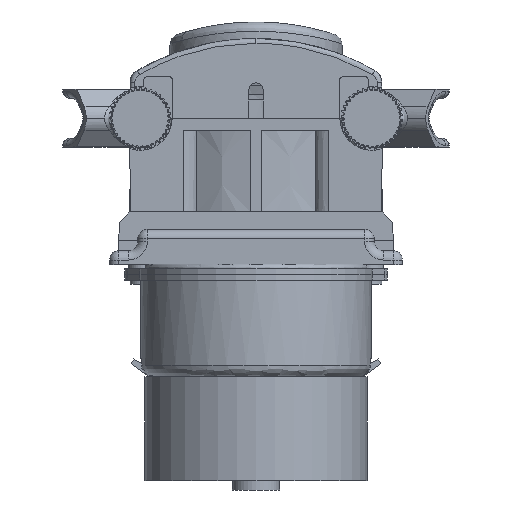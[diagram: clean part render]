
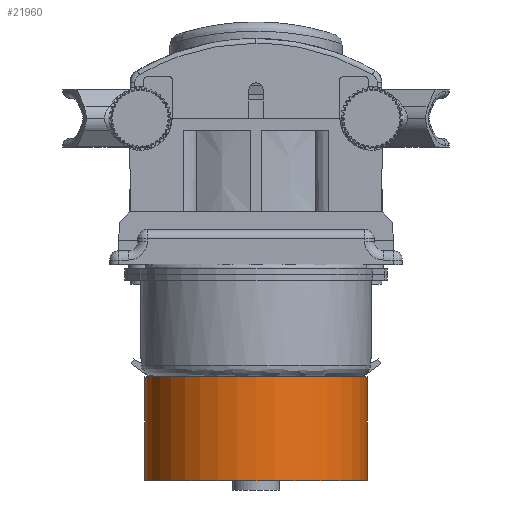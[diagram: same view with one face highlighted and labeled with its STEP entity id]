
A CAD part, front view. The second image highlights one B-rep face of the part: STEP entity #21960.
In plain terms, the highlighted cylindrical face has radius 23.5 mm (diameter 47 mm), a partial arc.
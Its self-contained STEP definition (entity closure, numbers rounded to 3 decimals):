
#3974 = ORIENTED_EDGE ( 'NONE', *, *, #27668, .F. ) ;
#4588 = ORIENTED_EDGE ( 'NONE', *, *, #60987, .T. ) ;
#5088 = VERTEX_POINT ( 'NONE', #8074 ) ;
#7483 = CIRCLE ( 'NONE', #52466, 23.5 ) ;
#8074 = CARTESIAN_POINT ( 'NONE',  ( -23.5, -26.2, -53.8 ) ) ;
#9648 = CIRCLE ( 'NONE', #29280, 23.5 ) ;
#11693 = DIRECTION ( 'NONE',  ( -1., 0., 0. ) ) ;
#16136 = CARTESIAN_POINT ( 'NONE',  ( -23.5, -26.2, -31.8 ) ) ;
#16463 = VECTOR ( 'NONE', #35520, 1000. ) ;
#16899 = DIRECTION ( 'NONE',  ( 0., 0., 1. ) ) ;
#18077 = LINE ( 'NONE', #25337, #16463 ) ;
#18869 = AXIS2_PLACEMENT_3D ( 'NONE', #47579, #16899, #11693 ) ;
#21846 = CARTESIAN_POINT ( 'NONE',  ( 0., -26.2, -31.8 ) ) ;
#21960 = ADVANCED_FACE ( 'NONE', ( #50569 ), #62644, .T. ) ;
#22006 = EDGE_CURVE ( 'NONE', #47270, #5088, #9648, .T. ) ;
#22262 = VERTEX_POINT ( 'NONE', #16136 ) ;
#25337 = CARTESIAN_POINT ( 'NONE',  ( 23.5, -26.2, -53.8 ) ) ;
#27034 = DIRECTION ( 'NONE',  ( 1., 0., 0. ) ) ;
#27668 = EDGE_CURVE ( 'NONE', #5088, #22262, #39873, .T. ) ;
#27967 = CARTESIAN_POINT ( 'NONE',  ( 0., -26.2, -53.8 ) ) ;
#29280 = AXIS2_PLACEMENT_3D ( 'NONE', #27967, #63702, #33175 ) ;
#33175 = DIRECTION ( 'NONE',  ( 1., 0., 0. ) ) ;
#35520 = DIRECTION ( 'NONE',  ( 0., 0., 1. ) ) ;
#38831 = ORIENTED_EDGE ( 'NONE', *, *, #22006, .F. ) ;
#39873 = LINE ( 'NONE', #43616, #63829 ) ;
#40992 = CARTESIAN_POINT ( 'NONE',  ( 23.5, -26.2, -31.8 ) ) ;
#42615 = EDGE_CURVE ( 'NONE', #63073, #22262, #7483, .T. ) ;
#43238 = ORIENTED_EDGE ( 'NONE', *, *, #42615, .T. ) ;
#43616 = CARTESIAN_POINT ( 'NONE',  ( -23.5, -26.2, -53.8 ) ) ;
#47270 = VERTEX_POINT ( 'NONE', #48456 ) ;
#47579 = CARTESIAN_POINT ( 'NONE',  ( 0., -26.2, -53.8 ) ) ;
#48456 = CARTESIAN_POINT ( 'NONE',  ( 23.5, -26.2, -53.8 ) ) ;
#50569 = FACE_OUTER_BOUND ( 'NONE', #58486, .T. ) ;
#52466 = AXIS2_PLACEMENT_3D ( 'NONE', #21846, #57504, #27034 ) ;
#57504 = DIRECTION ( 'NONE',  ( 0., 0., -1. ) ) ;
#58486 = EDGE_LOOP ( 'NONE', ( #38831, #4588, #43238, #3974 ) ) ;
#60987 = EDGE_CURVE ( 'NONE', #47270, #63073, #18077, .T. ) ;
#62644 = CYLINDRICAL_SURFACE ( 'NONE', #18869, 23.5 ) ;
#63073 = VERTEX_POINT ( 'NONE', #40992 ) ;
#63702 = DIRECTION ( 'NONE',  ( 0., 0., -1. ) ) ;
#63829 = VECTOR ( 'NONE', #64201, 1000. ) ;
#64201 = DIRECTION ( 'NONE',  ( 0., 0., 1. ) ) ;
